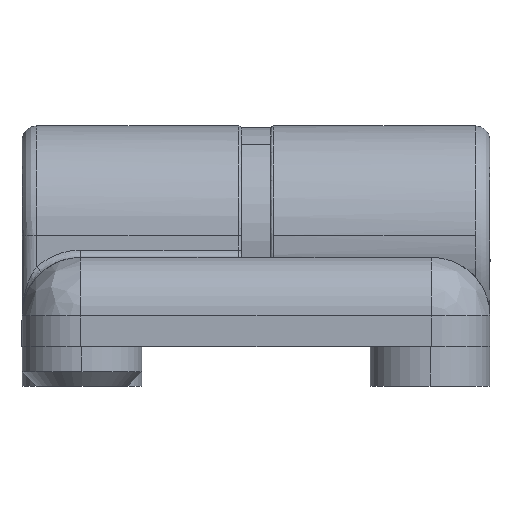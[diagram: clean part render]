
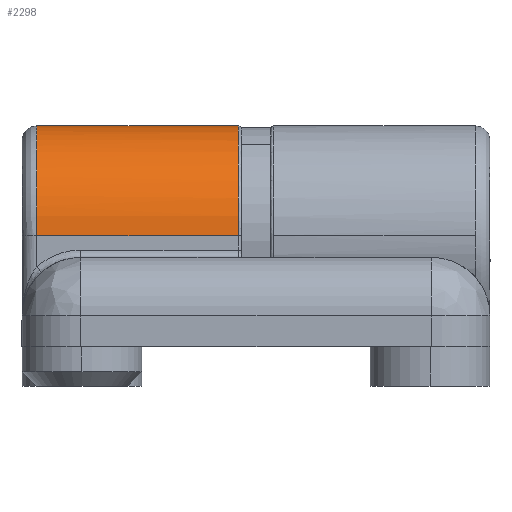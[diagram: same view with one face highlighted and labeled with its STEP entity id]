
A CAD part, left-side view. The second image highlights one B-rep face of the part: STEP entity #2298.
In plain terms, the highlighted cylindrical face has radius 7.5 mm (diameter 15 mm), a partial arc.
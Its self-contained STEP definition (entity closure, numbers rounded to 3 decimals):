
#98 = CARTESIAN_POINT ( 'NONE',  ( 2.886, -1., 8.804 ) ) ;
#138 = ORIENTED_EDGE ( 'NONE', *, *, #2527, .F. ) ;
#144 = FACE_OUTER_BOUND ( 'NONE', #5336, .T. ) ;
#171 = B_SPLINE_CURVE_WITH_KNOTS ( 'NONE', 3,
 ( #3229, #5477, #3205, #525, #3663, #962, #4110, #1418, #4586, #1875, #5040, #2359, #5504, #2800, #98, #3248, #547, #3681, #980, #4133, #1437, #4604, #1901, #5060 ),
 .UNSPECIFIED., .F., .F.,
 ( 4, 2, 2, 2, 2, 2, 2, 2, 2, 2, 2, 4 ),
 ( 0., 0.094, 0.188, 0.281, 0.375, 0.469, 0.563, 0.656, 0.75, 0.844, 0.938, 1. ),
 .UNSPECIFIED. ) ;
#525 = CARTESIAN_POINT ( 'NONE',  ( -6.963, -1., 4.724 ) ) ;
#547 = CARTESIAN_POINT ( 'NONE',  ( 4.783, -1., 7.666 ) ) ;
#551 = DIRECTION ( 'NONE',  ( 0., 1., 0. ) ) ;
#608 = DIRECTION ( 'NONE',  ( 0., -1., 0. ) ) ;
#731 = EDGE_CURVE ( 'NONE', #2932, #4379, #3718, .T. ) ;
#844 = CARTESIAN_POINT ( 'NONE',  ( -7.5, -1., 1.842 ) ) ;
#962 = CARTESIAN_POINT ( 'NONE',  ( -5.827, -1., 6.621 ) ) ;
#980 = CARTESIAN_POINT ( 'NONE',  ( 6.267, -1., 6.027 ) ) ;
#1050 = CARTESIAN_POINT ( 'NONE',  ( -7.5, 0., 1.842 ) ) ;
#1281 = VECTOR ( 'NONE', #608, 1000. ) ;
#1418 = CARTESIAN_POINT ( 'NONE',  ( -4.189, -1., 8.107 ) ) ;
#1437 = CARTESIAN_POINT ( 'NONE',  ( 7.212, -1., 4.028 ) ) ;
#1531 = VECTOR ( 'NONE', #5422, 1000. ) ;
#1659 = LINE ( 'NONE', #3587, #1531 ) ;
#1740 = AXIS2_PLACEMENT_3D ( 'NONE', #3249, #551, #3682 ) ;
#1875 = CARTESIAN_POINT ( 'NONE',  ( -2.19, -1., 9.053 ) ) ;
#1901 = CARTESIAN_POINT ( 'NONE',  ( 7.5, -1., 2.333 ) ) ;
#1925 = EDGE_CURVE ( 'NONE', #4268, #3517, #171, .T. ) ;
#2232 = CARTESIAN_POINT ( 'NONE',  ( 7.5, -1., 1.842 ) ) ;
#2298 = ADVANCED_FACE ( 'NONE', ( #144 ), #2405, .T. ) ;
#2359 = CARTESIAN_POINT ( 'NONE',  ( -0.002, -1., 9.378 ) ) ;
#2405 = CYLINDRICAL_SURFACE ( 'NONE', #4761, 7.5 ) ;
#2527 = EDGE_CURVE ( 'NONE', #3517, #4379, #1659, .T. ) ;
#2600 = DIRECTION ( 'NONE',  ( 1., 0., 0. ) ) ;
#2800 = CARTESIAN_POINT ( 'NONE',  ( 2.185, -1., 9.055 ) ) ;
#2932 = VERTEX_POINT ( 'NONE', #4814 ) ;
#2990 = ORIENTED_EDGE ( 'NONE', *, *, #1925, .F. ) ;
#3205 = CARTESIAN_POINT ( 'NONE',  ( -7.391, -1., 3.315 ) ) ;
#3229 = CARTESIAN_POINT ( 'NONE',  ( -7.5, -1., 1.842 ) ) ;
#3248 = CARTESIAN_POINT ( 'NONE',  ( 4.185, -1., 8.11 ) ) ;
#3249 = CARTESIAN_POINT ( 'NONE',  ( 0., -14.8, 1.842 ) ) ;
#3517 = VERTEX_POINT ( 'NONE', #2232 ) ;
#3587 = CARTESIAN_POINT ( 'NONE',  ( 7.5, 0., 1.842 ) ) ;
#3663 = CARTESIAN_POINT ( 'NONE',  ( -6.645, -1., 5.397 ) ) ;
#3681 = CARTESIAN_POINT ( 'NONE',  ( 5.824, -1., 6.625 ) ) ;
#3682 = DIRECTION ( 'NONE',  ( 1., 0., 0. ) ) ;
#3718 = CIRCLE ( 'NONE', #1740, 7.5 ) ;
#4002 = EDGE_CURVE ( 'NONE', #4268, #2932, #5048, .T. ) ;
#4110 = CARTESIAN_POINT ( 'NONE',  ( -5.327, -1., 7.173 ) ) ;
#4133 = CARTESIAN_POINT ( 'NONE',  ( 6.962, -1., 4.728 ) ) ;
#4268 = VERTEX_POINT ( 'NONE', #844 ) ;
#4360 = CARTESIAN_POINT ( 'NONE',  ( 0., 0., 1.842 ) ) ;
#4379 = VERTEX_POINT ( 'NONE', #4875 ) ;
#4463 = ORIENTED_EDGE ( 'NONE', *, *, #4002, .T. ) ;
#4586 = CARTESIAN_POINT ( 'NONE',  ( -3.55, -1., 8.49 ) ) ;
#4604 = CARTESIAN_POINT ( 'NONE',  ( 7.452, -1., 2.824 ) ) ;
#4761 = AXIS2_PLACEMENT_3D ( 'NONE', #4360, #5741, #2600 ) ;
#4814 = CARTESIAN_POINT ( 'NONE',  ( -7.5, -14.8, 1.842 ) ) ;
#4875 = CARTESIAN_POINT ( 'NONE',  ( 7.5, -14.8, 1.842 ) ) ;
#5040 = CARTESIAN_POINT ( 'NONE',  ( -1.468, -1., 9.234 ) ) ;
#5048 = LINE ( 'NONE', #1050, #1281 ) ;
#5060 = CARTESIAN_POINT ( 'NONE',  ( 7.5, -1., 1.842 ) ) ;
#5336 = EDGE_LOOP ( 'NONE', ( #138, #2990, #4463, #5566 ) ) ;
#5422 = DIRECTION ( 'NONE',  ( 0., -1., 0. ) ) ;
#5477 = CARTESIAN_POINT ( 'NONE',  ( -7.5, -1., 2.579 ) ) ;
#5504 = CARTESIAN_POINT ( 'NONE',  ( 0.741, -1., 9.342 ) ) ;
#5566 = ORIENTED_EDGE ( 'NONE', *, *, #731, .T. ) ;
#5741 = DIRECTION ( 'NONE',  ( 0., -1., 0. ) ) ;
